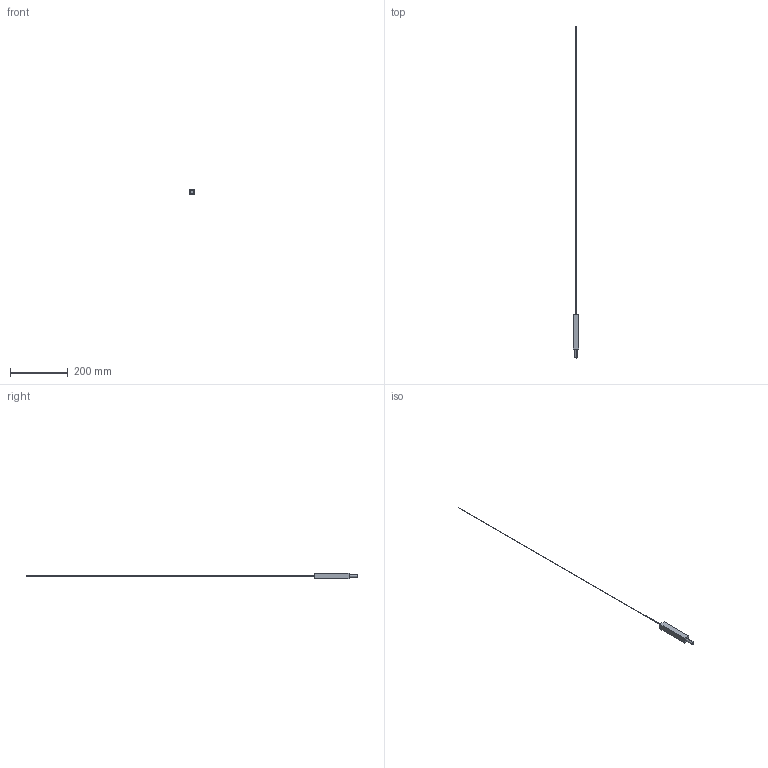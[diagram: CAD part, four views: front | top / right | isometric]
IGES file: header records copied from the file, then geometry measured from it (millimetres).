
Start section: SolidWorks IGES file using analytic representation for surfaces
Global section: file name: C:\Users\tungari.NEMOLIGHTING\Desktop\3D\SYSTEMS\3D_LINESCAPES_SYSTEMS\3D_LINESCAPES_VERTICAL_END\3D_LINESCAPES_VERTICAL_END.IGS; native system: SolidWorks 2016; preprocessor: SolidWorks 2016; author: tungari; date: 180302.161517; units: millimetre
Bounding box: 20 x 1146 x 20 mm (x, y, z)
Surface area: 15284.3 mm2 (no closed solid volume)
Topology: 0 solids, 0 shells, 14 faces, 136 edges, 136 vertices
Faces by surface type: bspline 10, revolution 4
